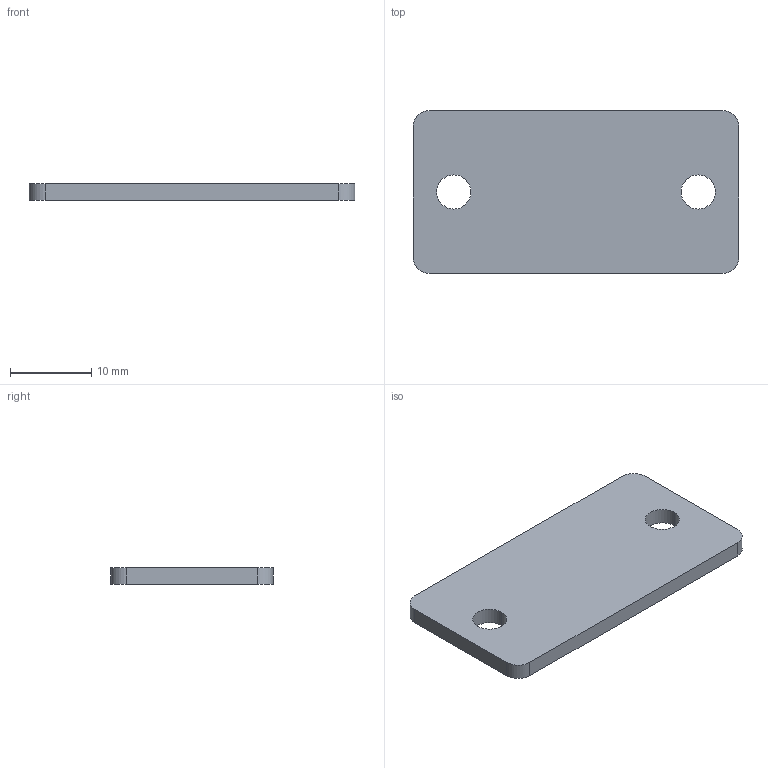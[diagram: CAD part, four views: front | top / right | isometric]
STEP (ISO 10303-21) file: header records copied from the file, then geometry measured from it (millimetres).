
FILE_DESCRIPTION (( 'STEP AP203' ), '1' );
FILE_NAME ('DML0640-K.STEP', '2018-08-31T06:12:46', ( '' ), ( '' ), 'SwSTEP 2.0', 'SolidWorks 2012', '' );
FILE_SCHEMA (( 'CONFIG_CONTROL_DESIGN' ));
Length unit declared in the file: millimetre
Products named in the file (1): DML0640-K
Bounding box: 40 x 20 x 2 mm (x, y, z)
Volume: 1537.7 mm3; surface area: 1823.6 mm2
Topology: 1 solids, 1 shells, 14 faces, 36 edges, 24 vertices
Faces by surface type: cylinder 8, plane 6
Entity records: 521 total; most frequent: DIRECTION 82, CARTESIAN_POINT 75, ORIENTED_EDGE 72, EDGE_CURVE 36, AXIS2_PLACEMENT_3D 31, VERTEX_POINT 24, VECTOR 20, LINE 20
